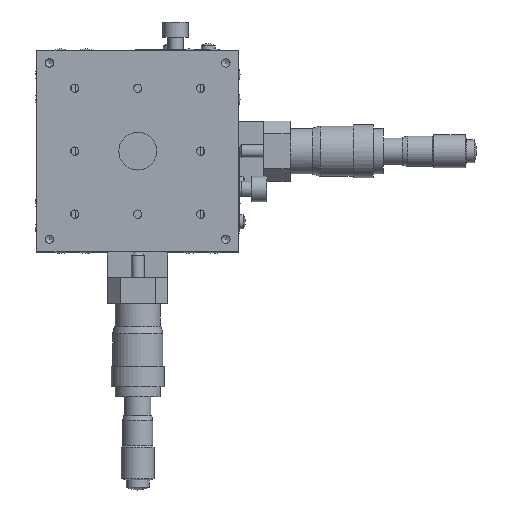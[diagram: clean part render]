
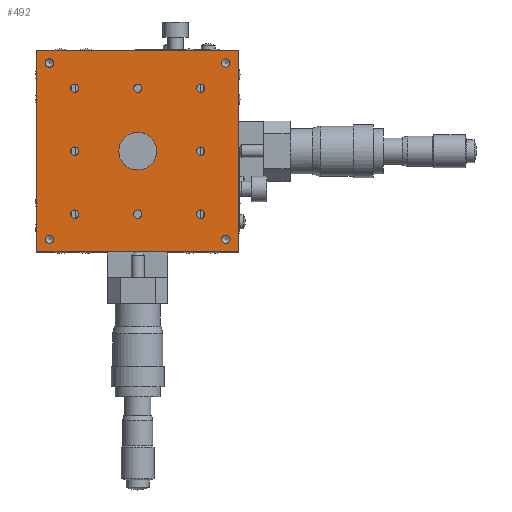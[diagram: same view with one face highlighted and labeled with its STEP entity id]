
A CAD part, top view. The second image highlights one B-rep face of the part: STEP entity #492.
In plain terms, the highlighted planar face has unit normal (0, 0, 1).
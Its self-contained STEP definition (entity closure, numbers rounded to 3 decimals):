
#492 = ADVANCED_FACE( '', ( #1269, #1270, #1271, #1272, #1273, #1274, #1275, #1276, #1277, #1278, #1279, #1280, #1281, #1282 ), #1283, .T. );
#1269 = FACE_BOUND( '', #2526, .T. );
#1270 = FACE_BOUND( '', #2527, .T. );
#1271 = FACE_BOUND( '', #2528, .T. );
#1272 = FACE_BOUND( '', #2529, .T. );
#1273 = FACE_BOUND( '', #2530, .T. );
#1274 = FACE_BOUND( '', #2531, .T. );
#1275 = FACE_BOUND( '', #2532, .T. );
#1276 = FACE_BOUND( '', #2533, .T. );
#1277 = FACE_BOUND( '', #2534, .T. );
#1278 = FACE_BOUND( '', #2535, .T. );
#1279 = FACE_BOUND( '', #2536, .T. );
#1280 = FACE_BOUND( '', #2537, .T. );
#1281 = FACE_OUTER_BOUND( '', #2538, .T. );
#1282 = FACE_BOUND( '', #2539, .T. );
#1283 = PLANE( '', #2540 );
#2526 = EDGE_LOOP( '', ( #3979 ) );
#2527 = EDGE_LOOP( '', ( #3980 ) );
#2528 = EDGE_LOOP( '', ( #3981 ) );
#2529 = EDGE_LOOP( '', ( #3982 ) );
#2530 = EDGE_LOOP( '', ( #3983 ) );
#2531 = EDGE_LOOP( '', ( #3984 ) );
#2532 = EDGE_LOOP( '', ( #3985 ) );
#2533 = EDGE_LOOP( '', ( #3986 ) );
#2534 = EDGE_LOOP( '', ( #3987 ) );
#2535 = EDGE_LOOP( '', ( #3988 ) );
#2536 = EDGE_LOOP( '', ( #3989 ) );
#2537 = EDGE_LOOP( '', ( #3990 ) );
#2538 = EDGE_LOOP( '', ( #3991, #3992, #3993, #3994 ) );
#2539 = EDGE_LOOP( '', ( #3995 ) );
#2540 = AXIS2_PLACEMENT_3D( '', #3996, #3997, #3998 );
#3979 = ORIENTED_EDGE( '', *, *, #6620, .T. );
#3980 = ORIENTED_EDGE( '', *, *, #6621, .T. );
#3981 = ORIENTED_EDGE( '', *, *, #6622, .T. );
#3982 = ORIENTED_EDGE( '', *, *, #6508, .T. );
#3983 = ORIENTED_EDGE( '', *, *, #6623, .T. );
#3984 = ORIENTED_EDGE( '', *, *, #6624, .T. );
#3985 = ORIENTED_EDGE( '', *, *, #6625, .T. );
#3986 = ORIENTED_EDGE( '', *, *, #6626, .T. );
#3987 = ORIENTED_EDGE( '', *, *, #6627, .T. );
#3988 = ORIENTED_EDGE( '', *, *, #6628, .T. );
#3989 = ORIENTED_EDGE( '', *, *, #6629, .T. );
#3990 = ORIENTED_EDGE( '', *, *, #6630, .T. );
#3991 = ORIENTED_EDGE( '', *, *, #6631, .F. );
#3992 = ORIENTED_EDGE( '', *, *, #6632, .F. );
#3993 = ORIENTED_EDGE( '', *, *, #6633, .F. );
#3994 = ORIENTED_EDGE( '', *, *, #6634, .F. );
#3995 = ORIENTED_EDGE( '', *, *, #6484, .T. );
#3996 = CARTESIAN_POINT( '', ( 0., 0., 40. ) );
#3997 = DIRECTION( '', ( 0., 0., 1. ) );
#3998 = DIRECTION( '', ( 1., 0., 0. ) );
#6484 = EDGE_CURVE( '', #7622, #7622, #7623, .T. );
#6508 = EDGE_CURVE( '', #7664, #7664, #7665, .T. );
#6620 = EDGE_CURVE( '', #7863, #7863, #7864, .T. );
#6621 = EDGE_CURVE( '', #7865, #7865, #7866, .T. );
#6622 = EDGE_CURVE( '', #7867, #7867, #7868, .T. );
#6623 = EDGE_CURVE( '', #7869, #7869, #7870, .T. );
#6624 = EDGE_CURVE( '', #7871, #7871, #7872, .T. );
#6625 = EDGE_CURVE( '', #7873, #7873, #7874, .T. );
#6626 = EDGE_CURVE( '', #7875, #7875, #7876, .T. );
#6627 = EDGE_CURVE( '', #7877, #7877, #7878, .T. );
#6628 = EDGE_CURVE( '', #7879, #7879, #7880, .T. );
#6629 = EDGE_CURVE( '', #7881, #7881, #7882, .T. );
#6630 = EDGE_CURVE( '', #7883, #7883, #7884, .T. );
#6631 = EDGE_CURVE( '', #7885, #7886, #7887, .T. );
#6632 = EDGE_CURVE( '', #7888, #7885, #7889, .T. );
#6633 = EDGE_CURVE( '', #7890, #7888, #7891, .T. );
#6634 = EDGE_CURVE( '', #7886, #7890, #7892, .T. );
#7622 = VERTEX_POINT( '', #9243 );
#7623 = CIRCLE( '', #9244, 7.5 );
#7664 = VERTEX_POINT( '', #9297 );
#7665 = CIRCLE( '', #9298, 1.65 );
#7863 = VERTEX_POINT( '', #9578 );
#7864 = CIRCLE( '', #9579, 1.65 );
#7865 = VERTEX_POINT( '', #9580 );
#7866 = CIRCLE( '', #9581, 1.65 );
#7867 = VERTEX_POINT( '', #9582 );
#7868 = CIRCLE( '', #9583, 1.65 );
#7869 = VERTEX_POINT( '', #9584 );
#7870 = CIRCLE( '', #9585, 1.65 );
#7871 = VERTEX_POINT( '', #9586 );
#7872 = CIRCLE( '', #9587, 1.65 );
#7873 = VERTEX_POINT( '', #9588 );
#7874 = CIRCLE( '', #9589, 1.65 );
#7875 = VERTEX_POINT( '', #9590 );
#7876 = CIRCLE( '', #9591, 1.65 );
#7877 = VERTEX_POINT( '', #9592 );
#7878 = CIRCLE( '', #9593, 1.65 );
#7879 = VERTEX_POINT( '', #9594 );
#7880 = CIRCLE( '', #9595, 1.65 );
#7881 = VERTEX_POINT( '', #9596 );
#7882 = CIRCLE( '', #9597, 1.65 );
#7883 = VERTEX_POINT( '', #9598 );
#7884 = CIRCLE( '', #9599, 1.65 );
#7885 = VERTEX_POINT( '', #9600 );
#7886 = VERTEX_POINT( '', #9601 );
#7887 = LINE( '', #9602, #9603 );
#7888 = VERTEX_POINT( '', #9604 );
#7889 = LINE( '', #9605, #9606 );
#7890 = VERTEX_POINT( '', #9607 );
#7891 = LINE( '', #9608, #9609 );
#7892 = LINE( '', #9610, #9611 );
#9243 = CARTESIAN_POINT( '', ( 7.5, 0., 40. ) );
#9244 = AXIS2_PLACEMENT_3D( '', #11165, #11166, #11167 );
#9297 = CARTESIAN_POINT( '', ( 25., 23.35, 40. ) );
#9298 = AXIS2_PLACEMENT_3D( '', #11198, #11199, #11200 );
#9578 = CARTESIAN_POINT( '', ( -25., -1.65, 40. ) );
#9579 = AXIS2_PLACEMENT_3D( '', #11319, #11320, #11321 );
#9580 = CARTESIAN_POINT( '', ( -25., 23.35, 40. ) );
#9581 = AXIS2_PLACEMENT_3D( '', #11322, #11323, #11324 );
#9582 = CARTESIAN_POINT( '', ( 0., 23.35, 40. ) );
#9583 = AXIS2_PLACEMENT_3D( '', #11325, #11326, #11327 );
#9584 = CARTESIAN_POINT( '', ( 25., -1.65, 40. ) );
#9585 = AXIS2_PLACEMENT_3D( '', #11328, #11329, #11330 );
#9586 = CARTESIAN_POINT( '', ( 25., -26.65, 40. ) );
#9587 = AXIS2_PLACEMENT_3D( '', #11331, #11332, #11333 );
#9588 = CARTESIAN_POINT( '', ( 0., -26.65, 40. ) );
#9589 = AXIS2_PLACEMENT_3D( '', #11334, #11335, #11336 );
#9590 = CARTESIAN_POINT( '', ( -25., -26.65, 40. ) );
#9591 = AXIS2_PLACEMENT_3D( '', #11337, #11338, #11339 );
#9592 = CARTESIAN_POINT( '', ( -35., 33.35, 40. ) );
#9593 = AXIS2_PLACEMENT_3D( '', #11340, #11341, #11342 );
#9594 = CARTESIAN_POINT( '', ( 35., 33.35, 40. ) );
#9595 = AXIS2_PLACEMENT_3D( '', #11343, #11344, #11345 );
#9596 = CARTESIAN_POINT( '', ( 35., -36.65, 40. ) );
#9597 = AXIS2_PLACEMENT_3D( '', #11346, #11347, #11348 );
#9598 = CARTESIAN_POINT( '', ( -35., -36.65, 40. ) );
#9599 = AXIS2_PLACEMENT_3D( '', #11349, #11350, #11351 );
#9600 = CARTESIAN_POINT( '', ( -40., 40., 40. ) );
#9601 = CARTESIAN_POINT( '', ( 40., 40., 40. ) );
#9602 = CARTESIAN_POINT( '', ( 0., 40., 40. ) );
#9603 = VECTOR( '', #11352, 1000. );
#9604 = CARTESIAN_POINT( '', ( -40., -40., 40. ) );
#9605 = CARTESIAN_POINT( '', ( -40., 0., 40. ) );
#9606 = VECTOR( '', #11353, 1000. );
#9607 = CARTESIAN_POINT( '', ( 40., -40., 40. ) );
#9608 = CARTESIAN_POINT( '', ( 0., -40., 40. ) );
#9609 = VECTOR( '', #11354, 1000. );
#9610 = CARTESIAN_POINT( '', ( 40., 0., 40. ) );
#9611 = VECTOR( '', #11355, 1000. );
#11165 = CARTESIAN_POINT( '', ( 0., 0., 40. ) );
#11166 = DIRECTION( '', ( 0., 0., -1. ) );
#11167 = DIRECTION( '', ( 1., 0., 0. ) );
#11198 = CARTESIAN_POINT( '', ( 25., 25., 40. ) );
#11199 = DIRECTION( '', ( 0., 0., -1. ) );
#11200 = DIRECTION( '', ( 0., -1., 0. ) );
#11319 = CARTESIAN_POINT( '', ( -25., 0., 40. ) );
#11320 = DIRECTION( '', ( 0., 0., -1. ) );
#11321 = DIRECTION( '', ( 0., -1., 0. ) );
#11322 = CARTESIAN_POINT( '', ( -25., 25., 40. ) );
#11323 = DIRECTION( '', ( 0., 0., -1. ) );
#11324 = DIRECTION( '', ( 0., -1., 0. ) );
#11325 = CARTESIAN_POINT( '', ( 0., 25., 40. ) );
#11326 = DIRECTION( '', ( 0., 0., -1. ) );
#11327 = DIRECTION( '', ( 0., -1., 0. ) );
#11328 = CARTESIAN_POINT( '', ( 25., 0., 40. ) );
#11329 = DIRECTION( '', ( 0., 0., -1. ) );
#11330 = DIRECTION( '', ( 0., -1., 0. ) );
#11331 = CARTESIAN_POINT( '', ( 25., -25., 40. ) );
#11332 = DIRECTION( '', ( 0., 0., -1. ) );
#11333 = DIRECTION( '', ( 0., -1., 0. ) );
#11334 = CARTESIAN_POINT( '', ( 0., -25., 40. ) );
#11335 = DIRECTION( '', ( 0., 0., -1. ) );
#11336 = DIRECTION( '', ( 0., -1., 0. ) );
#11337 = CARTESIAN_POINT( '', ( -25., -25., 40. ) );
#11338 = DIRECTION( '', ( 0., 0., -1. ) );
#11339 = DIRECTION( '', ( 0., -1., 0. ) );
#11340 = CARTESIAN_POINT( '', ( -35., 35., 40. ) );
#11341 = DIRECTION( '', ( 0., 0., -1. ) );
#11342 = DIRECTION( '', ( 0., -1., 0. ) );
#11343 = CARTESIAN_POINT( '', ( 35., 35., 40. ) );
#11344 = DIRECTION( '', ( 0., 0., -1. ) );
#11345 = DIRECTION( '', ( 0., -1., 0. ) );
#11346 = CARTESIAN_POINT( '', ( 35., -35., 40. ) );
#11347 = DIRECTION( '', ( 0., 0., -1. ) );
#11348 = DIRECTION( '', ( 0., -1., 0. ) );
#11349 = CARTESIAN_POINT( '', ( -35., -35., 40. ) );
#11350 = DIRECTION( '', ( 0., 0., -1. ) );
#11351 = DIRECTION( '', ( 0., -1., 0. ) );
#11352 = DIRECTION( '', ( 1., 0., 0. ) );
#11353 = DIRECTION( '', ( 0., 1., 0. ) );
#11354 = DIRECTION( '', ( -1., 0., 0. ) );
#11355 = DIRECTION( '', ( 0., -1., 0. ) );
